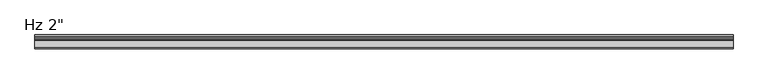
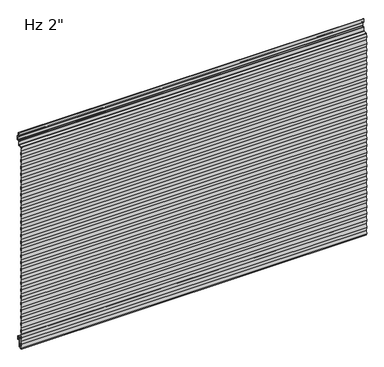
"""IFC4 building model written with IfcOpenShell, lengths in millimetres: plate geometry."""

from ifc_helpers import new_model, si_unit, point, frame, origin, place, context, project, spatial, polyline, circle_curve, ellipse_curve, trimmed, source, transform, mapped, element, save
from ifc_brep_helpers import plane_surface, cylinder_surface, revolved_surface, extruded_surface, advanced_brep


def plate_a52f081f(model_context):
    return source(origin(), model_context, "Body", "AdvancedBrep", [
        advanced_brep(
        [(-730.0, -25.4, -23.2314549), (-730.0, -26.9875, -23.2314549), (-730.0, -26.9875, -11.9205174), (-730.0, -34.925, -11.9205174), (-730.0, -34.925, -50.1038221), (-730.0, -37.181625, -52.4818086), (-730.0, -51.3543553, -53.22457), (-730.0, -52.0509395, -48.8709186), (-730.0, -49.6125395, -33.6309186), (-730.0, -52.0509395, -18.3909186), (-730.0, -49.6125395, -3.1509186), (-730.0, -52.0509395, 12.0890814), (-730.0, -49.6125395, 27.3290814), (-730.0, -52.0509395, 42.5690814), (-730.0, -49.6125395, 57.8090814), (-730.0, -52.0509395, 73.0490814), (-730.0, -49.6125395, 88.2890814), (-730.0, -52.0509395, 103.5290814), (-730.0, -49.6125395, 118.7690814), (-730.0, -52.0509395, 134.0090814), (-730.0, -49.6125395, 149.2490814), (-730.0, -52.0509395, 164.4890814), (-730.0, -49.6125395, 179.7290814), (-730.0, -52.0509395, 194.9690814), (-730.0, -49.6125395, 210.2090814), (-730.0, -52.0509395, 225.4490814), (-730.0, -49.6125395, 240.6890814), (-730.0, -52.0509395, 255.9290814), (-730.0, -49.6125395, 271.1690814), (-730.0, -52.0509395, 286.4090814), (-730.0, -49.6125395, 301.6490814), (-730.0, -52.0509395, 316.8890814), (-730.0, -49.6125395, 332.1290814), (-730.0, -52.0509395, 347.3690814), (-730.0, -49.6125395, 362.6090814), (-730.0, -52.0509395, 377.8490814), (-730.0, -49.6125395, 393.0890814), (-730.0, -52.0509395, 408.3290814), (-730.0, -49.6125395, 423.5690814), (-730.0, -52.0509395, 438.8090814), (-730.0, -49.6125395, 454.0490814), (-730.0, -52.0509395, 469.2890814), (-730.0, -49.6125395, 484.5290814), (-730.0, -52.0509395, 499.7690814), (-730.0, -49.6125395, 515.0090814), (-730.0, -52.0509395, 530.2490814), (-730.0, -49.6125395, 545.4890814), (-730.0, -52.0509395, 560.7290814), (-730.0, -49.6125395, 575.9690814), (-730.0, -52.0509395, 591.2090814), (-730.0, -49.6125395, 606.4490814), (-730.0, -52.0509395, 621.6890814), (-730.0, -49.6125395, 636.9290814), (-730.0, -52.0509395, 652.1690814), (-730.0, -49.6125395, 667.4090814), (-730.0, -52.0509395, 682.6490814), (-730.0, -49.6125395, 697.8890814), (-730.0, -52.0509395, 713.1290814), (-730.0, -49.6125395, 728.3690814), (-730.0, -52.0509395, 743.6090814), (-730.0, -49.6125395, 758.8490814), (-730.0, -52.0509395, 774.0890814), (-730.0, -49.6125395, 789.3290814), (-730.0, -52.0509395, 804.5690814), (-730.0, -49.6125395, 819.8090814), (-730.0, -52.0185287, 834.8465139), (-730.0, -50.0278537, 847.2882328), (-730.0, -48.543375, 848.6227473), (-730.0, -34.8419167, 849.3408103), (-730.0, -33.3375, 850.9261347), (-730.0, -33.3375, 865.0824411), (-730.0, -31.080875, 867.4604276), (-730.0, -25.3169167, 867.7625039), (-730.0, -23.8125, 869.3478283), (-730.0, -23.8125, 884.2232326), (-730.0, -25.4, 885.8107326), (-730.0, -29.5671875, 885.8107326), (-730.0, -31.9484375, 888.1919826), (-730.0, -31.9484375, 902.6836032), (-730.0, -30.1546875, 902.6836032), (-730.0, -30.1546875, 892.9544826), (-730.0, -30.9484375, 892.9544826), (-730.0, -30.9484375, 888.1919826), (-730.0, -29.5671875, 886.8107326), (-730.0, -25.4, 886.8107326), (-730.0, -22.8125, 884.2232326), (-730.0, -22.8125, 869.3478283), (-730.0, -25.2645807, 866.7638744), (-730.0, -31.028539, 866.4617981), (-730.0, -32.3375, 865.0824411), (-730.0, -32.3375, 850.9261347), (-730.0, -34.7895807, 848.3421807), (-730.0, -48.491039, 847.6241177), (-730.0, -49.040413, 847.1302423), (-730.0, -51.0058096, 834.8465139), (-730.0, -48.5998204, 819.8090814), (-730.0, -51.0382204, 804.5690814), (-730.0, -48.5998204, 789.3290814), (-730.0, -51.0382204, 774.0890814), (-730.0, -48.5998204, 758.8490814), (-730.0, -51.0382204, 743.6090814), (-730.0, -48.5998204, 728.3690814), (-730.0, -51.0382204, 713.1290814), (-730.0, -48.5998204, 697.8890814), (-730.0, -51.0382204, 682.6490814), (-730.0, -48.5998204, 667.4090814), (-730.0, -51.0382204, 652.1690814), (-730.0, -48.5998204, 636.9290814), (-730.0, -51.0382204, 621.6890814), (-730.0, -48.5998204, 606.4490814), (-730.0, -51.0382204, 591.2090814), (-730.0, -48.5998204, 575.9690814), (-730.0, -51.0382204, 560.7290814), (-730.0, -48.5998204, 545.4890814), (-730.0, -51.0382204, 530.2490814), (-730.0, -48.5998204, 515.0090814), (-730.0, -51.0382204, 499.7690814), (-730.0, -48.5998204, 484.5290814), (-730.0, -51.0382204, 469.2890814), (-730.0, -48.5998204, 454.0490814), (-730.0, -51.0382204, 438.8090814), (-730.0, -48.5998204, 423.5690814), (-730.0, -51.0382204, 408.3290814), (-730.0, -48.5998204, 393.0890814), (-730.0, -51.0382204, 377.8490814), (-730.0, -48.5998204, 362.6090814), (-730.0, -51.0382204, 347.3690814), (-730.0, -48.5998204, 332.1290814), (-730.0, -51.0382204, 316.8890814), (-730.0, -48.5998204, 301.6490814), (-730.0, -51.0382204, 286.4090814), (-730.0, -48.5998204, 271.1690814), (-730.0, -51.0382204, 255.9290814), (-730.0, -48.5998204, 240.6890814), (-730.0, -51.0382204, 225.4490814), (-730.0, -48.5998204, 210.2090814), (-730.0, -51.0382204, 194.9690814), (-730.0, -48.5998204, 179.7290814), (-730.0, -51.0382204, 164.4890814), (-730.0, -48.5998204, 149.2490814), (-730.0, -51.0382204, 134.0090814), (-730.0, -48.5998204, 118.7690814), (-730.0, -51.0382204, 103.5290814), (-730.0, -48.5998204, 88.2890814), (-730.0, -51.0382204, 73.0490814), (-730.0, -48.5998204, 57.8090814), (-730.0, -51.0382204, 42.5690814), (-730.0, -48.5998204, 27.3290814), (-730.0, -51.0382204, 12.0890814), (-730.0, -48.5998204, -3.1509186), (-730.0, -51.0382204, -18.3909186), (-730.0, -48.5998204, -33.6309186), (-730.0, -51.0382204, -48.8709186), (-730.0, -50.5089447, -52.1788915), (-730.0, -37.233961, -51.4831791), (-730.0, -35.925, -50.1038221), (-730.0, -35.925, -11.9205174), (-730.0, -25.9875, -11.9205174), (-730.0, -26.19375, -13.5080174), (-730.0, -25.4, -13.5080174), (730.0, -25.4, -23.2314549), (730.0, -25.4, -13.5080174), (730.0, -26.19375, -13.5080174), (730.0, -25.9875, -11.9205174), (730.0, -35.925, -11.9205174), (730.0, -35.925, -50.1038221), (730.0, -37.233961, -51.4831791), (730.0, -50.5089447, -52.1788915), (730.0, -51.0382204, -48.8709186), (730.0, -48.5998204, -33.6309186), (730.0, -51.0382204, -18.3909186), (730.0, -48.5998204, -3.1509186), (730.0, -51.0382204, 12.0890814), (730.0, -48.5998204, 27.3290814), (730.0, -51.0382204, 42.5690814), (730.0, -48.5998204, 57.8090814), (730.0, -51.0382204, 73.0490814), (730.0, -48.5998204, 88.2890814), (730.0, -51.0382204, 103.5290814), (730.0, -48.5998204, 118.7690814), (730.0, -51.0382204, 134.0090814), (730.0, -48.5998204, 149.2490814), (730.0, -51.0382204, 164.4890814), (730.0, -48.5998204, 179.7290814), (730.0, -51.0382204, 194.9690814), (730.0, -48.5998204, 210.2090814), (730.0, -51.0382204, 225.4490814), (730.0, -48.5998204, 240.6890814), (730.0, -51.0382204, 255.9290814), (730.0, -48.5998204, 271.1690814), (730.0, -51.0382204, 286.4090814), (730.0, -48.5998204, 301.6490814), (730.0, -51.0382204, 316.8890814), (730.0, -48.5998204, 332.1290814), (730.0, -51.0382204, 347.3690814), (730.0, -48.5998204, 362.6090814), (730.0, -51.0382204, 377.8490814), (730.0, -48.5998204, 393.0890814), (730.0, -51.0382204, 408.3290814), (730.0, -48.5998204, 423.5690814), (730.0, -51.0382204, 438.8090814), (730.0, -48.5998204, 454.0490814), (730.0, -51.0382204, 469.2890814), (730.0, -48.5998204, 484.5290814), (730.0, -51.0382204, 499.7690814), (730.0, -48.5998204, 515.0090814), (730.0, -51.0382204, 530.2490814), (730.0, -48.5998204, 545.4890814), (730.0, -51.0382204, 560.7290814), (730.0, -48.5998204, 575.9690814), (730.0, -51.0382204, 591.2090814), (730.0, -48.5998204, 606.4490814), (730.0, -51.0382204, 621.6890814), (730.0, -48.5998204, 636.9290814), (730.0, -51.0382204, 652.1690814), (730.0, -48.5998204, 667.4090814), (730.0, -51.0382204, 682.6490814), (730.0, -48.5998204, 697.8890814), (730.0, -51.0382204, 713.1290814), (730.0, -48.5998204, 728.3690814), (730.0, -51.0382204, 743.6090814), (730.0, -48.5998204, 758.8490814), (730.0, -51.0382204, 774.0890814), (730.0, -48.5998204, 789.3290814), (730.0, -51.0382204, 804.5690814), (730.0, -48.5998204, 819.8090814), (730.0, -51.0058096, 834.8465139), (730.0, -49.040413, 847.1302423), (730.0, -48.491039, 847.6241177), (730.0, -34.7895807, 848.3421807), (730.0, -32.3375, 850.9261347), (730.0, -32.3375, 865.0824411), (730.0, -31.028539, 866.4617981), (730.0, -25.2645807, 866.7638744), (730.0, -22.8125, 869.3478283), (730.0, -22.8125, 884.2232326), (730.0, -25.4, 886.8107326), (730.0, -29.5671875, 886.8107326), (730.0, -30.9484375, 888.1919826), (730.0, -30.9484375, 892.9544826), (730.0, -30.1546875, 892.9544826), (730.0, -30.1546875, 902.6836032), (730.0, -31.9484375, 902.6836032), (730.0, -31.9484375, 888.1919826), (730.0, -29.5671875, 885.8107326), (730.0, -25.4, 885.8107326), (730.0, -23.8125, 884.2232326), (730.0, -23.8125, 869.3478283), (730.0, -25.3169167, 867.7625039), (730.0, -31.080875, 867.4604276), (730.0, -33.3375, 865.0824411), (730.0, -33.3375, 850.9261347), (730.0, -34.8419167, 849.3408103), (730.0, -48.543375, 848.6227473), (730.0, -50.0278537, 847.2882328), (730.0, -52.0185287, 834.8465139), (730.0, -49.6125395, 819.8090814), (730.0, -52.0509395, 804.5690814), (730.0, -49.6125395, 789.3290814), (730.0, -52.0509395, 774.0890814), (730.0, -49.6125395, 758.8490814), (730.0, -52.0509395, 743.6090814), (730.0, -49.6125395, 728.3690814), (730.0, -52.0509395, 713.1290814), (730.0, -49.6125395, 697.8890814), (730.0, -52.0509395, 682.6490814), (730.0, -49.6125395, 667.4090814), (730.0, -52.0509395, 652.1690814), (730.0, -49.6125395, 636.9290814), (730.0, -52.0509395, 621.6890814), (730.0, -49.6125395, 606.4490814), (730.0, -52.0509395, 591.2090814), (730.0, -49.6125395, 575.9690814), (730.0, -52.0509395, 560.7290814), (730.0, -49.6125395, 545.4890814), (730.0, -52.0509395, 530.2490814), (730.0, -49.6125395, 515.0090814), (730.0, -52.0509395, 499.7690814), (730.0, -49.6125395, 484.5290814), (730.0, -52.0509395, 469.2890814), (730.0, -49.6125395, 454.0490814), (730.0, -52.0509395, 438.8090814), (730.0, -49.6125395, 423.5690814), (730.0, -52.0509395, 408.3290814), (730.0, -49.6125395, 393.0890814), (730.0, -52.0509395, 377.8490814), (730.0, -49.6125395, 362.6090814), (730.0, -52.0509395, 347.3690814), (730.0, -49.6125395, 332.1290814), (730.0, -52.0509395, 316.8890814), (730.0, -49.6125395, 301.6490814), (730.0, -52.0509395, 286.4090814), (730.0, -49.6125395, 271.1690814), (730.0, -52.0509395, 255.9290814), (730.0, -49.6125395, 240.6890814), (730.0, -52.0509395, 225.4490814), (730.0, -49.6125395, 210.2090814), (730.0, -52.0509395, 194.9690814), (730.0, -49.6125395, 179.7290814), (730.0, -52.0509395, 164.4890814), (730.0, -49.6125395, 149.2490814), (730.0, -52.0509395, 134.0090814), (730.0, -49.6125395, 118.7690814), (730.0, -52.0509395, 103.5290814), (730.0, -49.6125395, 88.2890814), (730.0, -52.0509395, 73.0490814), (730.0, -49.6125395, 57.8090814), (730.0, -52.0509395, 42.5690814), (730.0, -49.6125395, 27.3290814), (730.0, -52.0509395, 12.0890814), (730.0, -49.6125395, -3.1509186), (730.0, -52.0509395, -18.3909186), (730.0, -49.6125395, -33.6309186), (730.0, -52.0509395, -48.8709186), (730.0, -51.3543553, -53.22457), (730.0, -37.181625, -52.4818086), (730.0, -34.925, -50.1038221), (730.0, -34.925, -11.9205174), (730.0, -26.9875, -11.9205174), (730.0, -26.9875, -23.2314549)],
        [
            (0, 1, circle_curve(frame((-730.0, -26.19375, -23.2314549), z_axis=(-1.0, 0.0, 0.0), x_axis=(0.0, 0.0, 1.0)), 0.79375)),
            (1, 2),
            (2, 3, circle_curve(frame((-730.0, -30.95625, -11.9205174), z_axis=(1.0, 0.0, 0.0), x_axis=(0.0, 0.0, 1.0)), 3.96875)),
            (3, 4),
            (4, 5, circle_curve(frame((-730.0, -37.30625, -50.1038221), z_axis=(-1.0, 0.0, 0.0), x_axis=(0.0, 0.0, 1.0)), 2.38125)),
            (5, 6),
            (6, 7),
            (7, 8),
            (8, 9),
            (9, 10),
            (10, 11),
            (11, 12),
            (12, 13),
            (13, 14),
            (14, 15),
            (15, 16),
            (16, 17),
            (17, 18),
            (18, 19),
            (19, 20),
            (20, 21),
            (21, 22),
            (22, 23),
            (23, 24),
            (24, 25),
            (25, 26),
            (26, 27),
            (27, 28),
            (28, 29),
            (29, 30),
            (30, 31),
            (31, 32),
            (32, 33),
            (33, 34),
            (34, 35),
            (35, 36),
            (36, 37),
            (37, 38),
            (38, 39),
            (39, 40),
            (40, 41),
            (41, 42),
            (42, 43),
            (43, 44),
            (44, 45),
            (45, 46),
            (46, 47),
            (47, 48),
            (48, 49),
            (49, 50),
            (50, 51),
            (51, 52),
            (52, 53),
            (53, 54),
            (54, 55),
            (55, 56),
            (56, 57),
            (57, 58),
            (58, 59),
            (59, 60),
            (60, 61),
            (61, 62),
            (62, 63),
            (63, 64),
            (64, 65),
            (65, 66),
            (66, 67, circle_curve(frame((-730.0, -48.4602917, 847.0374229), z_axis=(-1.0, 0.0, 0.0), x_axis=(0.0, 0.0, 1.0)), 1.5875)),
            (67, 68),
            (68, 69, circle_curve(frame((-730.0, -34.925, 850.9261347), z_axis=(1.0, 0.0, 0.0), x_axis=(0.0, 0.0, 1.0)), 1.5875)),
            (69, 70),
            (70, 71, circle_curve(frame((-730.0, -30.95625, 865.0824411), z_axis=(-1.0, 0.0, 0.0), x_axis=(0.0, 0.0, 1.0)), 2.38125)),
            (71, 72),
            (72, 73, circle_curve(frame((-730.0, -25.4, 869.3478283), z_axis=(1.0, 0.0, 0.0), x_axis=(0.0, 0.0, 1.0)), 1.5875)),
            (73, 74),
            (74, 75, circle_curve(frame((-730.0, -25.4, 884.2232326), z_axis=(1.0, 0.0, 0.0), x_axis=(0.0, 0.0, 1.0)), 1.5875)),
            (75, 76),
            (76, 77, circle_curve(frame((-730.0, -29.5671875, 888.1919826), z_axis=(-1.0, 0.0, 0.0), x_axis=(0.0, 0.0, 1.0)), 2.38125)),
            (77, 78),
            (78, 79, ellipse_curve(frame((-730.0, -31.0515625, 902.6836032), z_axis=(-1.0, 0.0, 0.0), x_axis=(0.0, 1.0, 0.0)), 0.896875, 0.7852275)),
            (79, 80),
            (80, 81),
            (81, 82),
            (82, 83, circle_curve(frame((-730.0, -29.5671875, 888.1919826), z_axis=(1.0, 0.0, 0.0), x_axis=(0.0, 0.0, 1.0)), 1.38125)),
            (83, 84),
            (84, 85, circle_curve(frame((-730.0, -25.4, 884.2232326), z_axis=(-1.0, 0.0, 0.0), x_axis=(0.0, 0.0, 1.0)), 2.5875)),
            (85, 86),
            (86, 87, circle_curve(frame((-730.0, -25.4, 869.3478283), z_axis=(-1.0, 0.0, 0.0), x_axis=(0.0, 0.0, 1.0)), 2.5875)),
            (87, 88),
            (88, 89, circle_curve(frame((-730.0, -30.95625, 865.0824411), z_axis=(1.0, 0.0, 0.0), x_axis=(0.0, 0.0, 1.0)), 1.38125)),
            (89, 90),
            (90, 91, circle_curve(frame((-730.0, -34.925, 850.9261347), z_axis=(-1.0, 0.0, 0.0), x_axis=(0.0, 0.0, 1.0)), 2.5875)),
            (91, 92),
            (92, 93, circle_curve(frame((-730.0, -48.4602917, 847.0374229), z_axis=(1.0, 0.0, 0.0), x_axis=(0.0, 0.0, 1.0)), 0.5875)),
            (93, 94),
            (94, 95),
            (95, 96),
            (96, 97),
            (97, 98),
            (98, 99),
            (99, 100),
            (100, 101),
            (101, 102),
            (102, 103),
            (103, 104),
            (104, 105),
            (105, 106),
            (106, 107),
            (107, 108),
            (108, 109),
            (109, 110),
            (110, 111),
            (111, 112),
            (112, 113),
            (113, 114),
            (114, 115),
            (115, 116),
            (116, 117),
            (117, 118),
            (118, 119),
            (119, 120),
            (120, 121),
            (121, 122),
            (122, 123),
            (123, 124),
            (124, 125),
            (125, 126),
            (126, 127),
            (127, 128),
            (128, 129),
            (129, 130),
            (130, 131),
            (131, 132),
            (132, 133),
            (133, 134),
            (134, 135),
            (135, 136),
            (136, 137),
            (137, 138),
            (138, 139),
            (139, 140),
            (140, 141),
            (141, 142),
            (142, 143),
            (143, 144),
            (144, 145),
            (145, 146),
            (146, 147),
            (147, 148),
            (148, 149),
            (149, 150),
            (150, 151),
            (151, 152),
            (152, 153),
            (153, 154),
            (154, 155, circle_curve(frame((-730.0, -37.30625, -50.1038221), z_axis=(1.0, 0.0, 0.0), x_axis=(0.0, 0.0, 1.0)), 1.38125)),
            (155, 156),
            (156, 157, circle_curve(frame((-730.0, -30.95625, -11.9205174), z_axis=(-1.0, 0.0, 0.0), x_axis=(0.0, 0.0, 1.0)), 4.96875)),
            (157, 158),
            (158, 159),
            (159, 0),
            (160, 161),
            (161, 162),
            (162, 163),
            (163, 164, circle_curve(frame((730.0, -30.95625, -11.9205174), z_axis=(1.0, 0.0, 0.0), x_axis=(0.0, 0.0, 1.0)), 4.96875)),
            (164, 165),
            (165, 166, circle_curve(frame((730.0, -37.30625, -50.1038221), z_axis=(-1.0, 0.0, 0.0), x_axis=(0.0, 0.0, 1.0)), 1.38125)),
            (166, 167),
            (167, 168),
            (168, 169),
            (169, 170),
            (170, 171),
            (171, 172),
            (172, 173),
            (173, 174),
            (174, 175),
            (175, 176),
            (176, 177),
            (177, 178),
            (178, 179),
            (179, 180),
            (180, 181),
            (181, 182),
            (182, 183),
            (183, 184),
            (184, 185),
            (185, 186),
            (186, 187),
            (187, 188),
            (188, 189),
            (189, 190),
            (190, 191),
            (191, 192),
            (192, 193),
            (193, 194),
            (194, 195),
            (195, 196),
            (196, 197),
            (197, 198),
            (198, 199),
            (199, 200),
            (200, 201),
            (201, 202),
            (202, 203),
            (203, 204),
            (204, 205),
            (205, 206),
            (206, 207),
            (207, 208),
            (208, 209),
            (209, 210),
            (210, 211),
            (211, 212),
            (212, 213),
            (213, 214),
            (214, 215),
            (215, 216),
            (216, 217),
            (217, 218),
            (218, 219),
            (219, 220),
            (220, 221),
            (221, 222),
            (222, 223),
            (223, 224),
            (224, 225),
            (225, 226),
            (226, 227),
            (227, 228, circle_curve(frame((730.0, -48.4602917, 847.0374229), z_axis=(-1.0, 0.0, 0.0), x_axis=(0.0, 0.0, 1.0)), 0.5875)),
            (228, 229),
            (229, 230, circle_curve(frame((730.0, -34.925, 850.9261347), z_axis=(1.0, 0.0, 0.0), x_axis=(0.0, 0.0, 1.0)), 2.5875)),
            (230, 231),
            (231, 232, circle_curve(frame((730.0, -30.95625, 865.0824411), z_axis=(-1.0, 0.0, 0.0), x_axis=(0.0, 0.0, 1.0)), 1.38125)),
            (232, 233),
            (233, 234, circle_curve(frame((730.0, -25.4, 869.3478283), z_axis=(1.0, 0.0, 0.0), x_axis=(0.0, 0.0, 1.0)), 2.5875)),
            (234, 235),
            (235, 236, circle_curve(frame((730.0, -25.4, 884.2232326), z_axis=(1.0, 0.0, 0.0), x_axis=(0.0, 0.0, 1.0)), 2.5875)),
            (236, 237),
            (237, 238, circle_curve(frame((730.0, -29.5671875, 888.1919826), z_axis=(-1.0, 0.0, 0.0), x_axis=(0.0, 0.0, 1.0)), 1.38125)),
            (238, 239),
            (239, 240),
            (240, 241),
            (241, 242, ellipse_curve(frame((730.0, -31.0515625, 902.6836032), z_axis=(1.0, 0.0, 0.0), x_axis=(0.0, 1.0, 0.0)), 0.896875, 0.7852275)),
            (242, 243),
            (243, 244, circle_curve(frame((730.0, -29.5671875, 888.1919826), z_axis=(1.0, 0.0, 0.0), x_axis=(0.0, 0.0, 1.0)), 2.38125)),
            (244, 245),
            (245, 246, circle_curve(frame((730.0, -25.4, 884.2232326), z_axis=(-1.0, 0.0, 0.0), x_axis=(0.0, 0.0, 1.0)), 1.5875)),
            (246, 247),
            (247, 248, circle_curve(frame((730.0, -25.4, 869.3478283), z_axis=(-1.0, 0.0, 0.0), x_axis=(0.0, 0.0, 1.0)), 1.5875)),
            (248, 249),
            (249, 250, circle_curve(frame((730.0, -30.95625, 865.0824411), z_axis=(1.0, 0.0, 0.0), x_axis=(0.0, 0.0, 1.0)), 2.38125)),
            (250, 251),
            (251, 252, circle_curve(frame((730.0, -34.925, 850.9261347), z_axis=(-1.0, 0.0, 0.0), x_axis=(0.0, 0.0, 1.0)), 1.5875)),
            (252, 253),
            (253, 254, circle_curve(frame((730.0, -48.4602917, 847.0374229), z_axis=(1.0, 0.0, 0.0), x_axis=(0.0, 0.0, 1.0)), 1.5875)),
            (254, 255),
            (255, 256),
            (256, 257),
            (257, 258),
            (258, 259),
            (259, 260),
            (260, 261),
            (261, 262),
            (262, 263),
            (263, 264),
            (264, 265),
            (265, 266),
            (266, 267),
            (267, 268),
            (268, 269),
            (269, 270),
            (270, 271),
            (271, 272),
            (272, 273),
            (273, 274),
            (274, 275),
            (275, 276),
            (276, 277),
            (277, 278),
            (278, 279),
            (279, 280),
            (280, 281),
            (281, 282),
            (282, 283),
            (283, 284),
            (284, 285),
            (285, 286),
            (286, 287),
            (287, 288),
            (288, 289),
            (289, 290),
            (290, 291),
            (291, 292),
            (292, 293),
            (293, 294),
            (294, 295),
            (295, 296),
            (296, 297),
            (297, 298),
            (298, 299),
            (299, 300),
            (300, 301),
            (301, 302),
            (302, 303),
            (303, 304),
            (304, 305),
            (305, 306),
            (306, 307),
            (307, 308),
            (308, 309),
            (309, 310),
            (310, 311),
            (311, 312),
            (312, 313),
            (313, 314),
            (314, 315),
            (315, 316, circle_curve(frame((730.0, -37.30625, -50.1038221), z_axis=(1.0, 0.0, 0.0), x_axis=(0.0, 0.0, 1.0)), 2.38125)),
            (316, 317),
            (317, 318, circle_curve(frame((730.0, -30.95625, -11.9205174), z_axis=(-1.0, 0.0, 0.0), x_axis=(0.0, 0.0, 1.0)), 3.96875)),
            (318, 319),
            (319, 160, circle_curve(frame((730.0, -26.19375, -23.2314549), z_axis=(1.0, 0.0, 0.0), x_axis=(0.0, 0.0, 1.0)), 0.79375)),
            (108, 212),
            (211, 109),
            (210, 110),
            (209, 111),
            (208, 112),
            (207, 113),
            (206, 114),
            (205, 115),
            (204, 116),
            (203, 117),
            (202, 118),
            (201, 119),
            (200, 120),
            (199, 121),
            (153, 167),
            (166, 154),
            (165, 155),
            (164, 156),
            (163, 157),
            (158, 162),
            (161, 159),
            (80, 240),
            (239, 81),
            (79, 241),
            (78, 242),
            (67, 253),
            (252, 68),
            (91, 229),
            (228, 92),
            (64, 256),
            (255, 65),
            (94, 226),
            (225, 95),
            (224, 96),
            (223, 97),
            (222, 98),
            (221, 99),
            (220, 100),
            (219, 101),
            (218, 102),
            (217, 103),
            (216, 104),
            (215, 105),
            (214, 106),
            (213, 107),
            (24, 296),
            (295, 25),
            (294, 26),
            (293, 27),
            (292, 28),
            (291, 29),
            (290, 30),
            (289, 31),
            (288, 32),
            (287, 33),
            (286, 34),
            (285, 35),
            (284, 36),
            (137, 183),
            (182, 138),
            (181, 139),
            (180, 140),
            (179, 141),
            (178, 142),
            (58, 262),
            (261, 59),
            (260, 60),
            (259, 61),
            (258, 62),
            (257, 63),
            (254, 66),
            (227, 93),
            (123, 197),
            (196, 124),
            (195, 125),
            (194, 126),
            (193, 127),
            (192, 128),
            (191, 129),
            (190, 130),
            (189, 131),
            (188, 132),
            (187, 133),
            (186, 134),
            (185, 135),
            (184, 136),
            (22, 298),
            (297, 23),
            (15, 305),
            (304, 16),
            (13, 307),
            (306, 14),
            (146, 174),
            (173, 147),
            (144, 176),
            (175, 145),
            (12, 308),
            (21, 299),
            (19, 301),
            (300, 20),
            (143, 177),
            (17, 303),
            (302, 18),
            (56, 264),
            (263, 57),
            (54, 266),
            (265, 55),
            (52, 268),
            (267, 53),
            (50, 270),
            (269, 51),
            (48, 272),
            (271, 49),
            (46, 274),
            (273, 47),
            (44, 276),
            (275, 45),
            (42, 278),
            (277, 43),
            (40, 280),
            (279, 41),
            (38, 282),
            (281, 39),
            (283, 37),
            (10, 310),
            (309, 11),
            (8, 312),
            (311, 9),
            (6, 314),
            (313, 7),
            (151, 169),
            (168, 152),
            (149, 171),
            (170, 150),
            (172, 148),
            (198, 122),
            (90, 230),
            (88, 232),
            (231, 89),
            (86, 234),
            (233, 87),
            (82, 238),
            (237, 83),
            (84, 236),
            (235, 85),
            (77, 243),
            (75, 245),
            (244, 76),
            (73, 247),
            (246, 74),
            (71, 249),
            (248, 72),
            (69, 251),
            (250, 70),
            (5, 315),
            (3, 317),
            (316, 4),
            (1, 319),
            (318, 2),
            (160, 0),
        ],
        [
            plane_surface(frame((-730.0, -50.8, 457.2), z_axis=(-1.0, 0.0, 0.0), x_axis=(0.0, -1.0, 0.0))),
            plane_surface(frame((730.0, -50.8, 457.2), z_axis=(1.0, 0.0, 0.0), x_axis=(0.0, -1.0, 0.0))),
            plane_surface(frame((-730.0, -48.5998204, 606.4490814), z_axis=(0.0, 0.9874406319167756, 0.15799050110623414), x_axis=(1.0, 0.0, 0.0))),
            plane_surface(frame((-730.0, -51.0382204, 591.2090814), z_axis=(0.0, 0.987440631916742, -0.15799050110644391), x_axis=(1.0, 0.0, 0.0))),
            plane_surface(frame((-730.0, -48.5998204, 575.9690814), z_axis=(0.0, 0.987440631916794, 0.1579905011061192), x_axis=(1.0, 0.0, 0.0))),
            plane_surface(frame((-730.0, -51.0382204, 560.7290814), z_axis=(0.0, 0.987440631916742, -0.15799050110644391), x_axis=(1.0, 0.0, 0.0))),
            plane_surface(frame((-730.0, -48.5998204, 545.4890814), z_axis=(0.0, 0.9874406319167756, 0.15799050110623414), x_axis=(1.0, 0.0, 0.0))),
            plane_surface(frame((-730.0, -51.0382204, 530.2490814), z_axis=(0.0, 0.9874406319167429, -0.15799050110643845), x_axis=(1.0, 0.0, 0.0))),
            plane_surface(frame((-730.0, -48.5998204, 515.0090814), z_axis=(0.0, 0.9874406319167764, 0.15799050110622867), x_axis=(1.0, 0.0, 0.0))),
            plane_surface(frame((-730.0, -51.0382204, 499.7690814), z_axis=(0.0, 0.9874406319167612, -0.1579905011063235), x_axis=(1.0, 0.0, 0.0))),
            plane_surface(frame((-730.0, -48.5998204, 484.5290814), z_axis=(0.0, 0.9874406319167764, 0.15799050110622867), x_axis=(1.0, 0.0, 0.0))),
            plane_surface(frame((-730.0, -51.0382204, 469.2890814), z_axis=(0.0, 0.987440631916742, -0.15799050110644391), x_axis=(1.0, 0.0, 0.0))),
            plane_surface(frame((-730.0, -48.5998204, 454.0490814), z_axis=(0.0, 0.9874406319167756, 0.15799050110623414), x_axis=(1.0, 0.0, 0.0))),
            plane_surface(frame((-730.0, -51.0382204, 438.8090814), z_axis=(0.0, 0.987440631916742, -0.15799050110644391), x_axis=(1.0, 0.0, 0.0))),
            plane_surface(frame((-730.0, -48.5998204, 423.5690814), z_axis=(0.0, 0.987440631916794, 0.1579905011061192), x_axis=(1.0, 0.0, 0.0))),
            plane_surface(frame((-730.0, -37.233961, -51.4831791), z_axis=(0.0, -0.052335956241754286, 0.9986295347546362), x_axis=(1.0, 0.0, 0.0))),
            revolved_surface(polyline([(730.0, -37.30625, -48.7225721), (-730.0, -37.30625, -48.7225721)]), (-730.0, -37.30625, -50.1038221), (1.0, 0.0, 0.0)),
            plane_surface(frame((-730.0, -35.925, -11.9205174), z_axis=(0.0, -1.0, 0.0), x_axis=(1.0, 0.0, 0.0))),
            cylinder_surface(frame((-730.0, -30.95625, -11.9205174), z_axis=(-1.0, 0.0, 0.0), x_axis=(0.0, 0.0, 1.0)), 4.96875),
            plane_surface(frame((-730.0, -25.4, -13.5080174), z_axis=(0.0, 0.0, 1.0), x_axis=(1.0, 0.0, 0.0))),
            plane_surface(frame((-730.0, -26.19375, -13.5080174), z_axis=(0.0, 0.9916655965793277, -0.12883844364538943), x_axis=(1.0, 0.0, 0.0))),
            plane_surface(frame((-730.0, -30.9484375, 892.9544826), z_axis=(0.0, 0.0, -1.0), x_axis=(1.0, 0.0, 0.0))),
            plane_surface(frame((-730.0, -30.1546875, 892.9544826), z_axis=(0.0, 1.0, 0.0), x_axis=(1.0, 0.0, 0.0))),
            extruded_surface(trimmed(ellipse_curve(frame((-730.0, -31.0515625, 902.6836032), z_axis=(1.0, 0.0, 0.0), x_axis=(0.0, 1.0, 0.0)), 0.896875, 0.7852275), [point((-730.0, -30.1546875, 902.6836032))], [point((-730.0, -31.9484375, 902.6836032))], True, "CARTESIAN"), (1460.0, 0.0, 0.0), 1460.0),
            plane_surface(frame((-730.0, -34.8419167, 849.3408103), z_axis=(0.0, -0.052335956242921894, 0.998629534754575), x_axis=(1.0, 0.0, 0.0))),
            plane_surface(frame((-730.0, -48.491039, 847.6241177), z_axis=(0.0, 0.05233595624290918, -0.9986295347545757), x_axis=(1.0, 0.0, 0.0))),
            plane_surface(frame((-730.0, -52.0185287, 834.8465139), z_axis=(0.0, -0.9874406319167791, -0.15799050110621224), x_axis=(1.0, 0.0, 0.0))),
            plane_surface(frame((-730.0, -48.5998204, 819.8090814), z_axis=(0.0, 0.9874406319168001, 0.15799050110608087), x_axis=(1.0, 0.0, 0.0))),
            plane_surface(frame((-730.0, -51.0382204, 804.5690814), z_axis=(0.0, 0.9874406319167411, -0.15799050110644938), x_axis=(1.0, 0.0, 0.0))),
            plane_surface(frame((-730.0, -48.5998204, 789.3290814), z_axis=(0.0, 0.987440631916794, 0.1579905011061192), x_axis=(1.0, 0.0, 0.0))),
            plane_surface(frame((-730.0, -51.0382204, 774.0890814), z_axis=(0.0, 0.987440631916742, -0.15799050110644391), x_axis=(1.0, 0.0, 0.0))),
            plane_surface(frame((-730.0, -48.5998204, 758.8490814), z_axis=(0.0, 0.987440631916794, 0.1579905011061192), x_axis=(1.0, 0.0, 0.0))),
            plane_surface(frame((-730.0, -51.0382204, 743.6090814), z_axis=(0.0, 0.987440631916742, -0.15799050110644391), x_axis=(1.0, 0.0, 0.0))),
            plane_surface(frame((-730.0, -48.5998204, 728.3690814), z_axis=(0.0, 0.987440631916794, 0.1579905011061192), x_axis=(1.0, 0.0, 0.0))),
            plane_surface(frame((-730.0, -51.0382204, 713.1290814), z_axis=(0.0, 0.987440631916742, -0.15799050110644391), x_axis=(1.0, 0.0, 0.0))),
            plane_surface(frame((-730.0, -48.5998204, 697.8890814), z_axis=(0.0, 0.9874406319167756, 0.15799050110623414), x_axis=(1.0, 0.0, 0.0))),
            plane_surface(frame((-730.0, -51.0382204, 682.6490814), z_axis=(0.0, 0.9874406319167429, -0.15799050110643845), x_axis=(1.0, 0.0, 0.0))),
            plane_surface(frame((-730.0, -48.5998204, 667.4090814), z_axis=(0.0, 0.9874406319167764, 0.15799050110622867), x_axis=(1.0, 0.0, 0.0))),
            plane_surface(frame((-730.0, -51.0382204, 652.1690814), z_axis=(0.0, 0.9874406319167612, -0.1579905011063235), x_axis=(1.0, 0.0, 0.0))),
            plane_surface(frame((-730.0, -48.5998204, 636.9290814), z_axis=(0.0, 0.9874406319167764, 0.15799050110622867), x_axis=(1.0, 0.0, 0.0))),
            plane_surface(frame((-730.0, -51.0382204, 621.6890814), z_axis=(0.0, 0.987440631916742, -0.15799050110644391), x_axis=(1.0, 0.0, 0.0))),
            plane_surface(frame((-730.0, -52.0509395, 225.4490814), z_axis=(0.0, -0.9874406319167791, -0.15799050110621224), x_axis=(1.0, 0.0, 0.0))),
            plane_surface(frame((-730.0, -49.6125395, 240.6890814), z_axis=(0.0, -0.9874406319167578, 0.15799050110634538), x_axis=(1.0, 0.0, 0.0))),
            plane_surface(frame((-730.0, -52.0509395, 255.9290814), z_axis=(0.0, -0.9874406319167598, -0.15799050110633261), x_axis=(1.0, 0.0, 0.0))),
            plane_surface(frame((-730.0, -49.6125395, 271.1690814), z_axis=(0.0, -0.9874406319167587, 0.15799050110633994), x_axis=(1.0, 0.0, 0.0))),
            plane_surface(frame((-730.0, -52.0509395, 286.4090814), z_axis=(0.0, -0.9874406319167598, -0.15799050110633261), x_axis=(1.0, 0.0, 0.0))),
            plane_surface(frame((-730.0, -49.6125395, 301.6490814), z_axis=(0.0, -0.9874406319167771, 0.157990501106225), x_axis=(1.0, 0.0, 0.0))),
            plane_surface(frame((-730.0, -52.0509395, 316.8890814), z_axis=(0.0, -0.9874406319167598, -0.15799050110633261), x_axis=(1.0, 0.0, 0.0))),
            plane_surface(frame((-730.0, -49.6125395, 332.1290814), z_axis=(0.0, -0.9874406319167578, 0.15799050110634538), x_axis=(1.0, 0.0, 0.0))),
            plane_surface(frame((-730.0, -52.0509395, 347.3690814), z_axis=(0.0, -0.9874406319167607, -0.15799050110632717), x_axis=(1.0, 0.0, 0.0))),
            plane_surface(frame((-730.0, -49.6125395, 362.6090814), z_axis=(0.0, -0.9874406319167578, 0.15799050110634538), x_axis=(1.0, 0.0, 0.0))),
            plane_surface(frame((-730.0, -52.0509395, 377.8490814), z_axis=(0.0, -0.9874406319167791, -0.15799050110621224), x_axis=(1.0, 0.0, 0.0))),
            plane_surface(frame((-730.0, -49.6125395, 393.0890814), z_axis=(0.0, -0.9874406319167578, 0.15799050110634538), x_axis=(1.0, 0.0, 0.0))),
            plane_surface(frame((-730.0, -51.0382204, 164.4890814), z_axis=(0.0, 0.987440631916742, -0.15799050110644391), x_axis=(1.0, 0.0, 0.0))),
            plane_surface(frame((-730.0, -48.5998204, 149.2490814), z_axis=(0.0, 0.9874406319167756, 0.15799050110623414), x_axis=(1.0, 0.0, 0.0))),
            plane_surface(frame((-730.0, -51.0382204, 134.0090814), z_axis=(0.0, 0.987440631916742, -0.15799050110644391), x_axis=(1.0, 0.0, 0.0))),
            plane_surface(frame((-730.0, -48.5998204, 118.7690814), z_axis=(0.0, 0.987440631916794, 0.1579905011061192), x_axis=(1.0, 0.0, 0.0))),
            plane_surface(frame((-730.0, -51.0382204, 103.5290814), z_axis=(0.0, 0.987440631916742, -0.15799050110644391), x_axis=(1.0, 0.0, 0.0))),
            plane_surface(frame((-730.0, -52.0509395, 743.6090814), z_axis=(0.0, -0.9874406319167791, -0.15799050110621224), x_axis=(1.0, 0.0, 0.0))),
            plane_surface(frame((-730.0, -49.6125395, 758.8490814), z_axis=(0.0, -0.9874406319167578, 0.15799050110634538), x_axis=(1.0, 0.0, 0.0))),
            plane_surface(frame((-730.0, -52.0509395, 774.0890814), z_axis=(0.0, -0.9874406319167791, -0.15799050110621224), x_axis=(1.0, 0.0, 0.0))),
            plane_surface(frame((-730.0, -49.6125395, 789.3290814), z_axis=(0.0, -0.9874406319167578, 0.15799050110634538), x_axis=(1.0, 0.0, 0.0))),
            plane_surface(frame((-730.0, -52.0509395, 804.5690814), z_axis=(0.0, -0.9874406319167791, -0.15799050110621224), x_axis=(1.0, 0.0, 0.0))),
            plane_surface(frame((-730.0, -49.6125395, 819.8090814), z_axis=(0.0, -0.9874406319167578, 0.15799050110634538), x_axis=(1.0, 0.0, 0.0))),
            plane_surface(frame((-730.0, -50.0278537, 847.2882328), z_axis=(0.0, -0.9874406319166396, 0.15799050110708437), x_axis=(1.0, 0.0, 0.0))),
            cylinder_surface(frame((-730.0, -48.4602917, 847.0374229), z_axis=(-1.0, 0.0, 0.0), x_axis=(0.0, 0.0, 1.0)), 1.5875),
            revolved_surface(polyline([(730.0, -48.4602917, 847.6249229), (-730.0, -48.4602917, 847.6249229)]), (-730.0, -48.4602917, 847.0374229), (1.0, 0.0, 0.0)),
            plane_surface(frame((-730.0, -51.0058096, 834.8465139), z_axis=(0.0, 0.9874406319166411, -0.15799050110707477), x_axis=(1.0, 0.0, 0.0))),
            plane_surface(frame((-730.0, -51.0382204, 377.8490814), z_axis=(0.0, 0.987440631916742, -0.15799050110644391), x_axis=(1.0, 0.0, 0.0))),
            plane_surface(frame((-730.0, -48.5998204, 362.6090814), z_axis=(0.0, 0.987440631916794, 0.1579905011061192), x_axis=(1.0, 0.0, 0.0))),
            plane_surface(frame((-730.0, -51.0382204, 347.3690814), z_axis=(0.0, 0.987440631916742, -0.15799050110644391), x_axis=(1.0, 0.0, 0.0))),
            plane_surface(frame((-730.0, -48.5998204, 332.1290814), z_axis=(0.0, 0.9874406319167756, 0.15799050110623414), x_axis=(1.0, 0.0, 0.0))),
            plane_surface(frame((-730.0, -51.0382204, 316.8890814), z_axis=(0.0, 0.9874406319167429, -0.15799050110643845), x_axis=(1.0, 0.0, 0.0))),
            plane_surface(frame((-730.0, -48.5998204, 301.6490814), z_axis=(0.0, 0.9874406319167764, 0.15799050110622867), x_axis=(1.0, 0.0, 0.0))),
            plane_surface(frame((-730.0, -51.0382204, 286.4090814), z_axis=(0.0, 0.9874406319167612, -0.1579905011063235), x_axis=(1.0, 0.0, 0.0))),
            plane_surface(frame((-730.0, -48.5998204, 271.1690814), z_axis=(0.0, 0.9874406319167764, 0.15799050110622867), x_axis=(1.0, 0.0, 0.0))),
            plane_surface(frame((-730.0, -51.0382204, 255.9290814), z_axis=(0.0, 0.987440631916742, -0.15799050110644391), x_axis=(1.0, 0.0, 0.0))),
            plane_surface(frame((-730.0, -48.5998204, 240.6890814), z_axis=(0.0, 0.9874406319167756, 0.15799050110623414), x_axis=(1.0, 0.0, 0.0))),
            plane_surface(frame((-730.0, -51.0382204, 225.4490814), z_axis=(0.0, 0.987440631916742, -0.15799050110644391), x_axis=(1.0, 0.0, 0.0))),
            plane_surface(frame((-730.0, -48.5998204, 210.2090814), z_axis=(0.0, 0.987440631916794, 0.1579905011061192), x_axis=(1.0, 0.0, 0.0))),
            plane_surface(frame((-730.0, -51.0382204, 194.9690814), z_axis=(0.0, 0.987440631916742, -0.15799050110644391), x_axis=(1.0, 0.0, 0.0))),
            plane_surface(frame((-730.0, -48.5998204, 179.7290814), z_axis=(0.0, 0.9874406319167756, 0.15799050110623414), x_axis=(1.0, 0.0, 0.0))),
            plane_surface(frame((-730.0, -52.0509395, 194.9690814), z_axis=(0.0, -0.9874406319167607, -0.15799050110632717), x_axis=(1.0, 0.0, 0.0))),
            plane_surface(frame((-730.0, -49.6125395, 210.2090814), z_axis=(0.0, -0.9874406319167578, 0.15799050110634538), x_axis=(1.0, 0.0, 0.0))),
            plane_surface(frame((-730.0, -49.6125395, 88.2890814), z_axis=(0.0, -0.9874406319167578, 0.15799050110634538), x_axis=(1.0, 0.0, 0.0))),
            plane_surface(frame((-730.0, -49.6125395, 57.8090814), z_axis=(0.0, -0.9874406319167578, 0.15799050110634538), x_axis=(1.0, 0.0, 0.0))),
            plane_surface(frame((-730.0, -52.0509395, 73.0490814), z_axis=(0.0, -0.9874406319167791, -0.15799050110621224), x_axis=(1.0, 0.0, 0.0))),
            plane_surface(frame((-730.0, -48.5998204, 27.3290814), z_axis=(0.0, 0.9874406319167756, 0.15799050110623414), x_axis=(1.0, 0.0, 0.0))),
            plane_surface(frame((-730.0, -48.5998204, 57.8090814), z_axis=(0.0, 0.987440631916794, 0.1579905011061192), x_axis=(1.0, 0.0, 0.0))),
            plane_surface(frame((-730.0, -51.0382204, 42.5690814), z_axis=(0.0, 0.987440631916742, -0.15799050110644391), x_axis=(1.0, 0.0, 0.0))),
            plane_surface(frame((-730.0, -52.0509395, 42.5690814), z_axis=(0.0, -0.9874406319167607, -0.15799050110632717), x_axis=(1.0, 0.0, 0.0))),
            plane_surface(frame((-730.0, -49.6125395, 179.7290814), z_axis=(0.0, -0.9874406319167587, 0.15799050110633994), x_axis=(1.0, 0.0, 0.0))),
            plane_surface(frame((-730.0, -49.6125395, 149.2490814), z_axis=(0.0, -0.9874406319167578, 0.15799050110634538), x_axis=(1.0, 0.0, 0.0))),
            plane_surface(frame((-730.0, -52.0509395, 164.4890814), z_axis=(0.0, -0.9874406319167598, -0.15799050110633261), x_axis=(1.0, 0.0, 0.0))),
            plane_surface(frame((-730.0, -51.0382204, 73.0490814), z_axis=(0.0, 0.987440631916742, -0.15799050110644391), x_axis=(1.0, 0.0, 0.0))),
            plane_surface(frame((-730.0, -49.6125395, 118.7690814), z_axis=(0.0, -0.9874406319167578, 0.15799050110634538), x_axis=(1.0, 0.0, 0.0))),
            plane_surface(frame((-730.0, -48.5998204, 88.2890814), z_axis=(0.0, 0.9874406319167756, 0.15799050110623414), x_axis=(1.0, 0.0, 0.0))),
            plane_surface(frame((-730.0, -52.0509395, 103.5290814), z_axis=(0.0, -0.9874406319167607, -0.15799050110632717), x_axis=(1.0, 0.0, 0.0))),
            plane_surface(frame((-730.0, -52.0509395, 134.0090814), z_axis=(0.0, -0.9874406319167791, -0.15799050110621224), x_axis=(1.0, 0.0, 0.0))),
            plane_surface(frame((-730.0, -52.0509395, 713.1290814), z_axis=(0.0, -0.9874406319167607, -0.15799050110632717), x_axis=(1.0, 0.0, 0.0))),
            plane_surface(frame((-730.0, -52.0509395, 682.6490814), z_axis=(0.0, -0.9874406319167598, -0.15799050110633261), x_axis=(1.0, 0.0, 0.0))),
            plane_surface(frame((-730.0, -49.6125395, 697.8890814), z_axis=(0.0, -0.9874406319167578, 0.15799050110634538), x_axis=(1.0, 0.0, 0.0))),
            plane_surface(frame((-730.0, -49.6125395, 728.3690814), z_axis=(0.0, -0.9874406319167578, 0.15799050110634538), x_axis=(1.0, 0.0, 0.0))),
            plane_surface(frame((-730.0, -52.0509395, 652.1690814), z_axis=(0.0, -0.9874406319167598, -0.15799050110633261), x_axis=(1.0, 0.0, 0.0))),
            plane_surface(frame((-730.0, -52.0509395, 621.6890814), z_axis=(0.0, -0.9874406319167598, -0.15799050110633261), x_axis=(1.0, 0.0, 0.0))),
            plane_surface(frame((-730.0, -49.6125395, 636.9290814), z_axis=(0.0, -0.9874406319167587, 0.15799050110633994), x_axis=(1.0, 0.0, 0.0))),
            plane_surface(frame((-730.0, -49.6125395, 667.4090814), z_axis=(0.0, -0.9874406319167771, 0.157990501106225), x_axis=(1.0, 0.0, 0.0))),
            plane_surface(frame((-730.0, -52.0509395, 591.2090814), z_axis=(0.0, -0.9874406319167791, -0.15799050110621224), x_axis=(1.0, 0.0, 0.0))),
            plane_surface(frame((-730.0, -52.0509395, 560.7290814), z_axis=(0.0, -0.9874406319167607, -0.15799050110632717), x_axis=(1.0, 0.0, 0.0))),
            plane_surface(frame((-730.0, -49.6125395, 575.9690814), z_axis=(0.0, -0.9874406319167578, 0.15799050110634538), x_axis=(1.0, 0.0, 0.0))),
            plane_surface(frame((-730.0, -49.6125395, 606.4490814), z_axis=(0.0, -0.9874406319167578, 0.15799050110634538), x_axis=(1.0, 0.0, 0.0))),
            plane_surface(frame((-730.0, -52.0509395, 530.2490814), z_axis=(0.0, -0.9874406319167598, -0.15799050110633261), x_axis=(1.0, 0.0, 0.0))),
            plane_surface(frame((-730.0, -52.0509395, 499.7690814), z_axis=(0.0, -0.9874406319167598, -0.15799050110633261), x_axis=(1.0, 0.0, 0.0))),
            plane_surface(frame((-730.0, -49.6125395, 515.0090814), z_axis=(0.0, -0.9874406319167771, 0.157990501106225), x_axis=(1.0, 0.0, 0.0))),
            plane_surface(frame((-730.0, -49.6125395, 545.4890814), z_axis=(0.0, -0.9874406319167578, 0.15799050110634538), x_axis=(1.0, 0.0, 0.0))),
            plane_surface(frame((-730.0, -52.0509395, 469.2890814), z_axis=(0.0, -0.9874406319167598, -0.15799050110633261), x_axis=(1.0, 0.0, 0.0))),
            plane_surface(frame((-730.0, -52.0509395, 438.8090814), z_axis=(0.0, -0.9874406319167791, -0.15799050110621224), x_axis=(1.0, 0.0, 0.0))),
            plane_surface(frame((-730.0, -49.6125395, 454.0490814), z_axis=(0.0, -0.9874406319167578, 0.15799050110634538), x_axis=(1.0, 0.0, 0.0))),
            plane_surface(frame((-730.0, -49.6125395, 484.5290814), z_axis=(0.0, -0.9874406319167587, 0.15799050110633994), x_axis=(1.0, 0.0, 0.0))),
            plane_surface(frame((-730.0, -52.0509395, 408.3290814), z_axis=(0.0, -0.9874406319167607, -0.15799050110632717), x_axis=(1.0, 0.0, 0.0))),
            plane_surface(frame((-730.0, -49.6125395, 423.5690814), z_axis=(0.0, -0.9874406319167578, 0.15799050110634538), x_axis=(1.0, 0.0, 0.0))),
            plane_surface(frame((-730.0, -52.0509395, 12.0890814), z_axis=(0.0, -0.9874406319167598, -0.15799050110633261), x_axis=(1.0, 0.0, 0.0))),
            plane_surface(frame((-730.0, -49.6125395, 27.3290814), z_axis=(0.0, -0.9874406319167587, 0.15799050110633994), x_axis=(1.0, 0.0, 0.0))),
            plane_surface(frame((-730.0, -52.0509395, -18.3909186), z_axis=(0.0, -0.9874406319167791, -0.15799050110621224), x_axis=(1.0, 0.0, 0.0))),
            plane_surface(frame((-730.0, -52.0509395, -48.8709186), z_axis=(0.0, -0.9874406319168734, -0.15799050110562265), x_axis=(1.0, 0.0, 0.0))),
            plane_surface(frame((-730.0, -49.6125395, -33.6309186), z_axis=(0.0, -0.9874406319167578, 0.15799050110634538), x_axis=(1.0, 0.0, 0.0))),
            plane_surface(frame((-730.0, -49.6125395, -3.1509186), z_axis=(0.0, -0.9874406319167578, 0.15799050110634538), x_axis=(1.0, 0.0, 0.0))),
            plane_surface(frame((-730.0, -51.0382204, -48.8709186), z_axis=(0.0, 0.9874406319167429, -0.15799050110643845), x_axis=(1.0, 0.0, 0.0))),
            plane_surface(frame((-730.0, -51.0382204, -18.3909186), z_axis=(0.0, 0.987440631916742, -0.15799050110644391), x_axis=(1.0, 0.0, 0.0))),
            plane_surface(frame((-730.0, -48.5998204, -33.6309186), z_axis=(0.0, 0.987440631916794, 0.1579905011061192), x_axis=(1.0, 0.0, 0.0))),
            plane_surface(frame((-730.0, -50.5089447, -52.1788915), z_axis=(0.0, 0.987440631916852, 0.1579905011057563), x_axis=(1.0, 0.0, 0.0))),
            plane_surface(frame((-730.0, -51.0382204, 12.0890814), z_axis=(0.0, 0.987440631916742, -0.15799050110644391), x_axis=(1.0, 0.0, 0.0))),
            plane_surface(frame((-730.0, -48.5998204, -3.1509186), z_axis=(0.0, 0.9874406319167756, 0.15799050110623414), x_axis=(1.0, 0.0, 0.0))),
            plane_surface(frame((-730.0, -51.0382204, 408.3290814), z_axis=(0.0, 0.987440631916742, -0.15799050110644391), x_axis=(1.0, 0.0, 0.0))),
            plane_surface(frame((-730.0, -48.5998204, 393.0890814), z_axis=(0.0, 0.9874406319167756, 0.15799050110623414), x_axis=(1.0, 0.0, 0.0))),
            cylinder_surface(frame((-730.0, -34.925, 850.9261347), z_axis=(-1.0, 0.0, 0.0), x_axis=(0.0, 0.0, 1.0)), 2.5875),
            revolved_surface(polyline([(730.0, -30.95625, 866.4636911), (-730.0, -30.95625, 866.4636911)]), (-730.0, -30.95625, 865.0824411), (1.0, 0.0, 0.0)),
            cylinder_surface(frame((-730.0, -25.4, 869.3478283), z_axis=(-1.0, 0.0, 0.0), x_axis=(0.0, 0.0, 1.0)), 2.5875),
            plane_surface(frame((-730.0, -31.028539, 866.4617981), z_axis=(0.0, 0.0523359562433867, -0.9986295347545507), x_axis=(1.0, 0.0, 0.0))),
            plane_surface(frame((-730.0, -32.3375, 850.9261347), z_axis=(0.0, 1.0, 0.0), x_axis=(1.0, 0.0, 0.0))),
            revolved_surface(polyline([(730.0, -29.5671875, 889.5732326), (-730.0, -29.5671875, 889.5732326)]), (-730.0, -29.5671875, 888.1919826), (1.0, 0.0, 0.0)),
            cylinder_surface(frame((-730.0, -25.4, 884.2232326), z_axis=(-1.0, 0.0, 0.0), x_axis=(0.0, 0.0, 1.0)), 2.5875),
            plane_surface(frame((-730.0, -25.4, 886.8107326), z_axis=(0.0, 0.0, 1.0), x_axis=(1.0, 0.0, 0.0))),
            plane_surface(frame((-730.0, -30.9484375, 888.1919826), z_axis=(0.0, 1.0, 0.0), x_axis=(1.0, 0.0, 0.0))),
            plane_surface(frame((-730.0, -31.9484375, 902.6836032), z_axis=(0.0, -1.0, 0.0), x_axis=(1.0, 0.0, 0.0))),
            plane_surface(frame((-730.0, -29.5671875, 885.8107326), z_axis=(0.0, 0.0, -1.0), x_axis=(1.0, 0.0, 0.0))),
            cylinder_surface(frame((-730.0, -29.5671875, 888.1919826), z_axis=(-1.0, 0.0, 0.0), x_axis=(0.0, 0.0, 1.0)), 2.38125),
            plane_surface(frame((-730.0, -22.8125, 869.3478283), z_axis=(0.0, 1.0, 0.0), x_axis=(1.0, 0.0, 0.0))),
            plane_surface(frame((-730.0, -23.8125, 884.2232326), z_axis=(0.0, -1.0, 0.0), x_axis=(1.0, 0.0, 0.0))),
            plane_surface(frame((-730.0, -25.3169167, 867.7625039), z_axis=(0.0, -0.052335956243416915, 0.9986295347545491), x_axis=(1.0, 0.0, 0.0))),
            revolved_surface(polyline([(730.0, -25.4, 870.9353282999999), (-730.0, -25.4, 870.9353282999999)]), (-730.0, -25.4, 869.3478283), (1.0, 0.0, 0.0)),
            revolved_surface(polyline([(730.0, -25.4, 885.8107325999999), (-730.0, -25.4, 885.8107325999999)]), (-730.0, -25.4, 884.2232326), (1.0, 0.0, 0.0)),
            plane_surface(frame((-730.0, -33.3375, 865.0824411), z_axis=(0.0, -1.0, 0.0), x_axis=(1.0, 0.0, 0.0))),
            revolved_surface(polyline([(730.0, -34.925, 852.5136347), (-730.0, -34.925, 852.5136347)]), (-730.0, -34.925, 850.9261347), (1.0, 0.0, 0.0)),
            cylinder_surface(frame((-730.0, -30.95625, 865.0824411), z_axis=(-1.0, 0.0, 0.0), x_axis=(0.0, 0.0, 1.0)), 2.38125),
            plane_surface(frame((-730.0, -51.3543553, -53.22457), z_axis=(0.0, 0.052335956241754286, -0.9986295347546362), x_axis=(1.0, 0.0, 0.0))),
            plane_surface(frame((-730.0, -34.925, -50.1038221), z_axis=(0.0, 1.0, 0.0), x_axis=(1.0, 0.0, 0.0))),
            plane_surface(frame((-730.0, -26.9875, -11.9205174), z_axis=(0.0, -1.0, 0.0), x_axis=(1.0, 0.0, 0.0))),
            revolved_surface(polyline([(730.0, -30.95625, -7.9517674), (-730.0, -30.95625, -7.9517674)]), (-730.0, -30.95625, -11.9205174), (1.0, 0.0, 0.0)),
            cylinder_surface(frame((-730.0, -37.30625, -50.1038221), z_axis=(-1.0, 0.0, 0.0), x_axis=(0.0, 0.0, 1.0)), 2.38125),
            plane_surface(frame((-730.0, -25.4, -23.2314549), z_axis=(0.0, 1.0, 0.0), x_axis=(1.0, 0.0, 0.0))),
            cylinder_surface(frame((-730.0, -26.19375, -23.2314549), z_axis=(-1.0, 0.0, 0.0), x_axis=(0.0, 0.0, 1.0)), 0.79375),
        ],
        [
            (0, [[1, 2, 3, 4, 5, 6, 7, 8, 9, 10, 11, 12, 13, 14, 15, 16, 17, 18, 19, 20, 21, 22, 23, 24, 25, 26, 27, 28, 29, 30, 31, 32, 33, 34, 35, 36, 37, 38, 39, 40, 41, 42, 43, 44, 45, 46, 47, 48, 49, 50, 51, 52, 53, 54, 55, 56, 57, 58, 59, 60, 61, 62, 63, 64, 65, 66, 67, 68, 69, 70, 71, 72, 73, 74, 75, 76, 77, 78, 79, 80, 81, 82, 83, 84, 85, 86, 87, 88, 89, 90, 91, 92, 93, 94, 95, 96, 97, 98, 99, 100, 101, 102, 103, 104, 105, 106, 107, 108, 109, 110, 111, 112, 113, 114, 115, 116, 117, 118, 119, 120, 121, 122, 123, 124, 125, 126, 127, 128, 129, 130, 131, 132, 133, 134, 135, 136, 137, 138, 139, 140, 141, 142, 143, 144, 145, 146, 147, 148, 149, 150, 151, 152, 153, 154, 155, 156, 157, 158, 159, 160]]),
            (1, [[161, 162, 163, 164, 165, 166, 167, 168, 169, 170, 171, 172, 173, 174, 175, 176, 177, 178, 179, 180, 181, 182, 183, 184, 185, 186, 187, 188, 189, 190, 191, 192, 193, 194, 195, 196, 197, 198, 199, 200, 201, 202, 203, 204, 205, 206, 207, 208, 209, 210, 211, 212, 213, 214, 215, 216, 217, 218, 219, 220, 221, 222, 223, 224, 225, 226, 227, 228, 229, 230, 231, 232, 233, 234, 235, 236, 237, 238, 239, 240, 241, 242, 243, 244, 245, 246, 247, 248, 249, 250, 251, 252, 253, 254, 255, 256, 257, 258, 259, 260, 261, 262, 263, 264, 265, 266, 267, 268, 269, 270, 271, 272, 273, 274, 275, 276, 277, 278, 279, 280, 281, 282, 283, 284, 285, 286, 287, 288, 289, 290, 291, 292, 293, 294, 295, 296, 297, 298, 299, 300, 301, 302, 303, 304, 305, 306, 307, 308, 309, 310, 311, 312, 313, 314, 315, 316, 317, 318, 319, 320]]),
            (2, [[321, -212, 322, -109]]),
            (3, [[-322, -211, 323, -110]]),
            (4, [[-323, -210, 324, -111]]),
            (5, [[-324, -209, 325, -112]]),
            (6, [[-325, -208, 326, -113]]),
            (7, [[-326, -207, 327, -114]]),
            (8, [[-327, -206, 328, -115]]),
            (9, [[-328, -205, 329, -116]]),
            (10, [[-329, -204, 330, -117]]),
            (11, [[-330, -203, 331, -118]]),
            (12, [[-331, -202, 332, -119]]),
            (13, [[-332, -201, 333, -120]]),
            (14, [[-333, -200, 334, -121]]),
            (15, [[335, -167, 336, -154]]),
            (16, [[-336, -166, 337, -155]]),
            (17, [[-337, -165, 338, -156]]),
            (18, [[-338, -164, 339, -157]]),
            (19, [[340, -162, 341, -159]]),
            (20, [[-339, -163, -340, -158]]),
            (21, [[342, -240, 343, -81]]),
            (22, [[344, -241, -342, -80]]),
            (23, [[345, -242, -344, -79]]),
            (24, [[346, -253, 347, -68]]),
            (25, [[348, -229, 349, -92]]),
            (26, [[350, -256, 351, -65]]),
            (27, [[352, -226, 353, -95]]),
            (28, [[-353, -225, 354, -96]]),
            (29, [[-354, -224, 355, -97]]),
            (30, [[-355, -223, 356, -98]]),
            (31, [[-356, -222, 357, -99]]),
            (32, [[-357, -221, 358, -100]]),
            (33, [[-358, -220, 359, -101]]),
            (34, [[-359, -219, 360, -102]]),
            (35, [[-360, -218, 361, -103]]),
            (36, [[-361, -217, 362, -104]]),
            (37, [[-362, -216, 363, -105]]),
            (38, [[-363, -215, 364, -106]]),
            (39, [[-364, -214, 365, -107]]),
            (40, [[-365, -213, -321, -108]]),
            (41, [[366, -296, 367, -25]]),
            (42, [[-367, -295, 368, -26]]),
            (43, [[-368, -294, 369, -27]]),
            (44, [[-369, -293, 370, -28]]),
            (45, [[-370, -292, 371, -29]]),
            (46, [[-371, -291, 372, -30]]),
            (47, [[-372, -290, 373, -31]]),
            (48, [[-373, -289, 374, -32]]),
            (49, [[-374, -288, 375, -33]]),
            (50, [[-375, -287, 376, -34]]),
            (51, [[-376, -286, 377, -35]]),
            (52, [[-377, -285, 378, -36]]),
            (53, [[379, -183, 380, -138]]),
            (54, [[-380, -182, 381, -139]]),
            (55, [[-381, -181, 382, -140]]),
            (56, [[-382, -180, 383, -141]]),
            (57, [[-383, -179, 384, -142]]),
            (58, [[385, -262, 386, -59]]),
            (59, [[-386, -261, 387, -60]]),
            (60, [[-387, -260, 388, -61]]),
            (61, [[-388, -259, 389, -62]]),
            (62, [[-389, -258, 390, -63]]),
            (63, [[-390, -257, -350, -64]]),
            (64, [[-351, -255, 391, -66]]),
            (65, [[-391, -254, -346, -67]]),
            (66, [[-349, -228, 392, -93]]),
            (67, [[-392, -227, -352, -94]]),
            (68, [[393, -197, 394, -124]]),
            (69, [[-394, -196, 395, -125]]),
            (70, [[-395, -195, 396, -126]]),
            (71, [[-396, -194, 397, -127]]),
            (72, [[-397, -193, 398, -128]]),
            (73, [[-398, -192, 399, -129]]),
            (74, [[-399, -191, 400, -130]]),
            (75, [[-400, -190, 401, -131]]),
            (76, [[-401, -189, 402, -132]]),
            (77, [[-402, -188, 403, -133]]),
            (78, [[-403, -187, 404, -134]]),
            (79, [[-404, -186, 405, -135]]),
            (80, [[-405, -185, 406, -136]]),
            (81, [[-406, -184, -379, -137]]),
            (82, [[407, -298, 408, -23]]),
            (83, [[-408, -297, -366, -24]]),
            (84, [[409, -305, 410, -16]]),
            (85, [[411, -307, 412, -14]]),
            (86, [[-412, -306, -409, -15]]),
            (87, [[413, -174, 414, -147]]),
            (88, [[415, -176, 416, -145]]),
            (89, [[-416, -175, -413, -146]]),
            (90, [[417, -308, -411, -13]]),
            (91, [[418, -299, -407, -22]]),
            (92, [[419, -301, 420, -20]]),
            (93, [[-420, -300, -418, -21]]),
            (94, [[421, -177, -415, -144]]),
            (95, [[422, -303, 423, -18]]),
            (96, [[-384, -178, -421, -143]]),
            (97, [[-410, -304, -422, -17]]),
            (98, [[-423, -302, -419, -19]]),
            (99, [[424, -264, 425, -57]]),
            (100, [[426, -266, 427, -55]]),
            (101, [[-427, -265, -424, -56]]),
            (102, [[-425, -263, -385, -58]]),
            (103, [[428, -268, 429, -53]]),
            (104, [[430, -270, 431, -51]]),
            (105, [[-431, -269, -428, -52]]),
            (106, [[-429, -267, -426, -54]]),
            (107, [[432, -272, 433, -49]]),
            (108, [[434, -274, 435, -47]]),
            (109, [[-435, -273, -432, -48]]),
            (110, [[-433, -271, -430, -50]]),
            (111, [[436, -276, 437, -45]]),
            (112, [[438, -278, 439, -43]]),
            (113, [[-439, -277, -436, -44]]),
            (114, [[-437, -275, -434, -46]]),
            (115, [[440, -280, 441, -41]]),
            (116, [[442, -282, 443, -39]]),
            (117, [[-443, -281, -440, -40]]),
            (118, [[-441, -279, -438, -42]]),
            (119, [[-378, -284, 444, -37]]),
            (120, [[-444, -283, -442, -38]]),
            (121, [[445, -310, 446, -11]]),
            (122, [[-446, -309, -417, -12]]),
            (123, [[447, -312, 448, -9]]),
            (124, [[449, -314, 450, -7]]),
            (125, [[-450, -313, -447, -8]]),
            (126, [[-448, -311, -445, -10]]),
            (127, [[451, -169, 452, -152]]),
            (128, [[453, -171, 454, -150]]),
            (129, [[-454, -170, -451, -151]]),
            (130, [[-452, -168, -335, -153]]),
            (131, [[-414, -173, 455, -148]]),
            (132, [[-455, -172, -453, -149]]),
            (133, [[-334, -199, 456, -122]]),
            (134, [[-456, -198, -393, -123]]),
            (135, [[457, -230, -348, -91]]),
            (136, [[458, -232, 459, -89]]),
            (137, [[460, -234, 461, -87]]),
            (138, [[-461, -233, -458, -88]]),
            (139, [[-459, -231, -457, -90]]),
            (140, [[462, -238, 463, -83]]),
            (141, [[464, -236, 465, -85]]),
            (142, [[-463, -237, -464, -84]]),
            (143, [[-343, -239, -462, -82]]),
            (144, [[466, -243, -345, -78]]),
            (145, [[467, -245, 468, -76]]),
            (146, [[-468, -244, -466, -77]]),
            (147, [[-465, -235, -460, -86]]),
            (148, [[469, -247, 470, -74]]),
            (149, [[471, -249, 472, -72]]),
            (150, [[-472, -248, -469, -73]]),
            (151, [[-470, -246, -467, -75]]),
            (152, [[473, -251, 474, -70]]),
            (153, [[-347, -252, -473, -69]]),
            (154, [[-474, -250, -471, -71]]),
            (155, [[475, -315, -449, -6]]),
            (156, [[476, -317, 477, -4]]),
            (157, [[478, -319, 479, -2]]),
            (158, [[-479, -318, -476, -3]]),
            (159, [[-477, -316, -475, -5]]),
            (160, [[-341, -161, 480, -160]]),
            (161, [[-480, -320, -478, -1]]),
        ],
    ),
    ])


if __name__ == "__main__":
    model = new_model("IFC4")
    model_context = context("Model", 3, world=origin())
    ifc_project = project(units=[si_unit("LENGTHUNIT", "METRE", prefix="MILLI")], contexts=[model_context])
    site = spatial("IfcSite", under=ifc_project)
    building = spatial("IfcBuilding", under=site)
    placement = place(None, origin())
    plate_shape = plate_a52f081f(model_context)
    element("IfcPlate", 1, ObjectType="KIP-36-DWHR-R19-CP-Hz-S : Hz 2\"", at=placement, inside=building, context=model_context, shape_type="MappedRepresentation", body=[
        mapped(plate_shape, transform((0.0, 0.0, 0.0), x_axis=(1.0, 0.0, 0.0), y_axis=(0.0, 1.0, 0.0), z_axis=(0.0, 0.0, 1.0))),
    ])
    save(model, "model.ifc")
